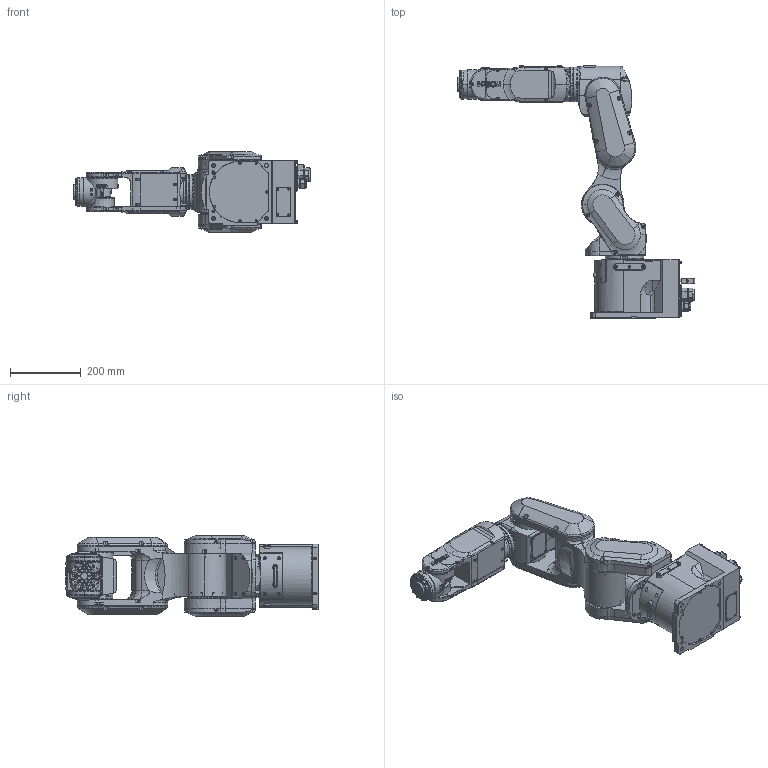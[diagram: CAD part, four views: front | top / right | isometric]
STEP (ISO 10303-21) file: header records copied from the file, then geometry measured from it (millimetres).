
FILE_DESCRIPTION (( 'STEP AP214' ), '1' );
FILE_NAME ('CX7-x701SN.STEP', '2026-08-04T20:55:09', ( '' ), ( '' ), 'SwSTEP 2.0', 'SolidWorks 2020', '' );
FILE_SCHEMA (( 'AUTOMOTIVE_DESIGN' ));
Length unit declared in the file: millimetre
Products named in the file (8): CX7-A701S-NIW_J3_1_2_3; CX7-A701S-NIW_J1_1_2_3; CX7-A701S-NIW_J5_1_2_3; CX7-A701S-NIW_J4_1_2_3; CX7-A701S-NIW_J2_1_2_3; CX7-x701SN; CX7-A701S-NIW_J6_1_2_3; CX7-A701S-NIW_BASE_1_2_3
Assembly tree (7 placements, depth 2):
  CX7-x701SN
    CX7-A701S-NIW_BASE_1_2_3
    CX7-A701S-NIW_J1_1_2_3
    CX7-A701S-NIW_J2_1_2_3
    CX7-A701S-NIW_J3_1_2_3
    CX7-A701S-NIW_J4_1_2_3
    CX7-A701S-NIW_J5_1_2_3
    CX7-A701S-NIW_J6_1_2_3
Bounding box: 672 x 712 x 228 mm (x, y, z)
Volume: 7848324.4 mm3; surface area: 1079115.2 mm2
Topology: 4 solids, 9 shells, 3420 faces, 8551 edges, 5301 vertices
Faces by surface type: plane 1159, cylinder 1147, cone 656, torus 319, sphere 89, bspline 50
Entity records: 155708 total; most frequent: CARTESIAN_POINT 68555, ORIENTED_EDGE 16784, DIRECTION 11548, EDGE_CURVE 8401, VERTEX_POINT 5301, B_SPLINE_CURVE_WITH_KNOTS 5254, AXIS2_PLACEMENT_3D 5042, EDGE_LOOP 3748
